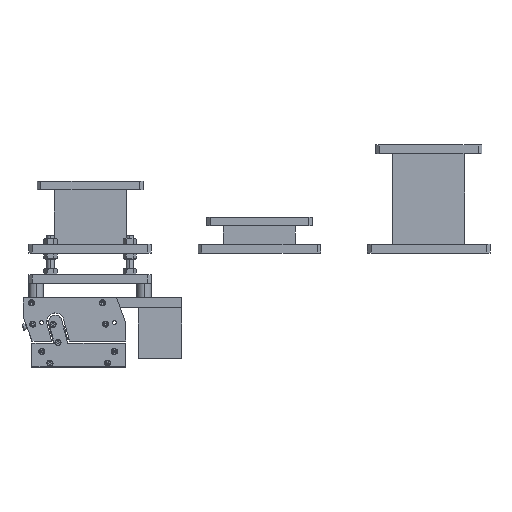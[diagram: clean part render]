
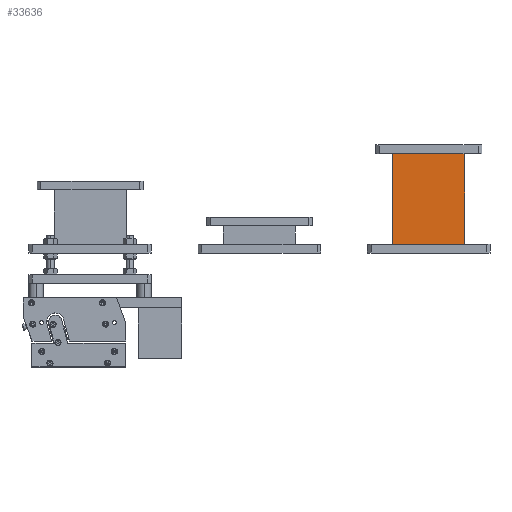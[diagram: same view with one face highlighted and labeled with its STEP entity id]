
A CAD part, top view. The second image highlights one B-rep face of the part: STEP entity #33636.
In plain terms, the highlighted planar face has unit normal (0, 0, 1).
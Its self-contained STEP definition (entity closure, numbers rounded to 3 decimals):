
#1311 = EDGE_CURVE ( 'NONE', #10471, #32104, #5559, .T. ) ;
#1324 = EDGE_CURVE ( 'NONE', #32104, #7959, #2182, .T. ) ;
#2182 = LINE ( 'NONE', #38864, #34972 ) ;
#5093 = LINE ( 'NONE', #26498, #24812 ) ;
#5559 = LINE ( 'NONE', #38471, #16607 ) ;
#6048 = ORIENTED_EDGE ( 'NONE', *, *, #1324, .F. ) ;
#7772 = LINE ( 'NONE', #32571, #28024 ) ;
#7959 = VERTEX_POINT ( 'NONE', #19254 ) ;
#8580 = CARTESIAN_POINT ( 'NONE',  ( 287.613, 206.507, 14.457 ) ) ;
#10244 = ORIENTED_EDGE ( 'NONE', *, *, #27077, .T. ) ;
#10270 = EDGE_LOOP ( 'NONE', ( #10244, #6048, #10531, #21080 ) ) ;
#10471 = VERTEX_POINT ( 'NONE', #10561 ) ;
#10531 = ORIENTED_EDGE ( 'NONE', *, *, #1311, .F. ) ;
#10561 = CARTESIAN_POINT ( 'NONE',  ( 287.613, 256.507, 14.457 ) ) ;
#10647 = CARTESIAN_POINT ( 'NONE',  ( 287.613, 130.507, 14.457 ) ) ;
#11032 = DIRECTION ( 'NONE',  ( 0., -1., 0. ) ) ;
#11956 = FACE_OUTER_BOUND ( 'NONE', #10270, .T. ) ;
#13059 = AXIS2_PLACEMENT_3D ( 'NONE', #8580, #17731, #17930 ) ;
#14464 = DIRECTION ( 'NONE',  ( 0., -1., 0. ) ) ;
#14672 = DIRECTION ( 'NONE',  ( 1., 0., 0. ) ) ;
#16607 = VECTOR ( 'NONE', #14672, 1000. ) ;
#17731 = DIRECTION ( 'NONE',  ( 0., 0., -1. ) ) ;
#17930 = DIRECTION ( 'NONE',  ( -1., 0., 0. ) ) ;
#19254 = CARTESIAN_POINT ( 'NONE',  ( 387.613, 130.507, 14.457 ) ) ;
#21080 = ORIENTED_EDGE ( 'NONE', *, *, #22662, .T. ) ;
#22662 = EDGE_CURVE ( 'NONE', #10471, #29412, #5093, .T. ) ;
#24812 = VECTOR ( 'NONE', #11032, 1000. ) ;
#26498 = CARTESIAN_POINT ( 'NONE',  ( 287.613, 206.507, 14.457 ) ) ;
#26642 = PLANE ( 'NONE',  #13059 ) ;
#27077 = EDGE_CURVE ( 'NONE', #29412, #7959, #7772, .T. ) ;
#28024 = VECTOR ( 'NONE', #37916, 1000. ) ;
#29412 = VERTEX_POINT ( 'NONE', #10647 ) ;
#32104 = VERTEX_POINT ( 'NONE', #32255 ) ;
#32255 = CARTESIAN_POINT ( 'NONE',  ( 387.613, 256.507, 14.457 ) ) ;
#32571 = CARTESIAN_POINT ( 'NONE',  ( 287.613, 130.507, 14.457 ) ) ;
#33636 = ADVANCED_FACE ( 'NONE', ( #11956 ), #26642, .F. ) ;
#34972 = VECTOR ( 'NONE', #14464, 1000. ) ;
#37916 = DIRECTION ( 'NONE',  ( 1., 0., 0. ) ) ;
#38471 = CARTESIAN_POINT ( 'NONE',  ( 287.613, 256.507, 14.457 ) ) ;
#38864 = CARTESIAN_POINT ( 'NONE',  ( 387.613, 206.507, 14.457 ) ) ;
